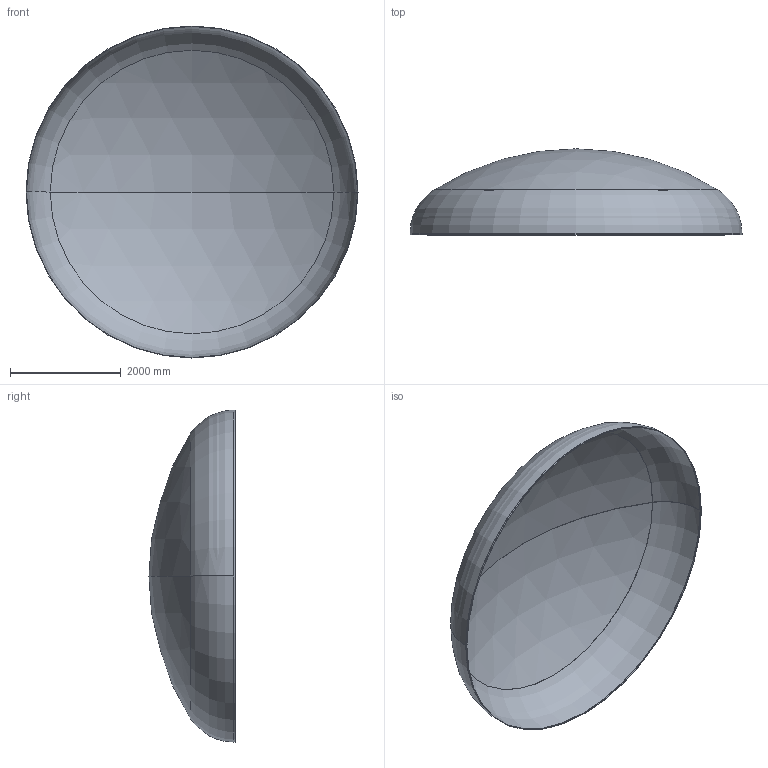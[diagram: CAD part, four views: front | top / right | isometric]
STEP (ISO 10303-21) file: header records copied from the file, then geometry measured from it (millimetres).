
FILE_DESCRIPTION (( 'STEP AP203' ), '1' );
FILE_NAME ('DIN 28013 Korbbogenform_-_Boden DIN 28013 - 6000 x 25 - I - s=7.step', '2016-07-04T10:35:33', ( '' ), ( '' ), 'SwSTEP 2.0', 'SolidWorks 2013', '' );
FILE_SCHEMA (( 'CONFIG_CONTROL_DESIGN' ));
Length unit declared in the file: millimetre
Products named in the file (1): DIN 28013 Korbbogenform_-_Boden DIN 28013 - 6000 x 25 - I - s=7
Bounding box: 6000 x 1554.96 x 6000 mm (x, y, z)
Volume: 277077072.7 mm3; surface area: 79296740.5 mm2
Topology: 1 solids, 1 shells, 13 faces, 24 edges, 14 vertices
Faces by surface type: torus 4, cylinder 4, sphere 4, plane 1
Entity records: 407 total; most frequent: DIRECTION 72, CARTESIAN_POINT 52, ORIENTED_EDGE 48, AXIS2_PLACEMENT_3D 34, EDGE_CURVE 24, CIRCLE 20, VERTEX_POINT 14, EDGE_LOOP 14
